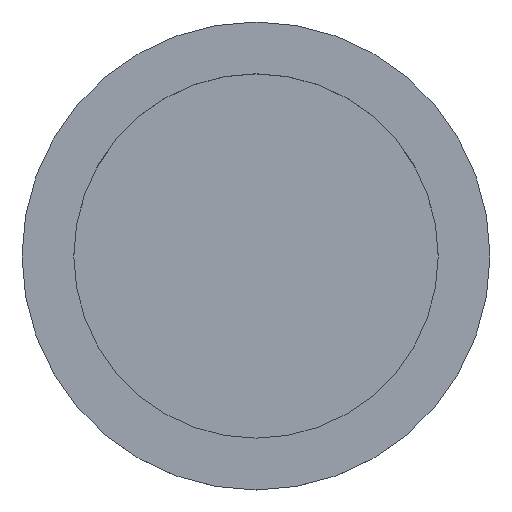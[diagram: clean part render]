
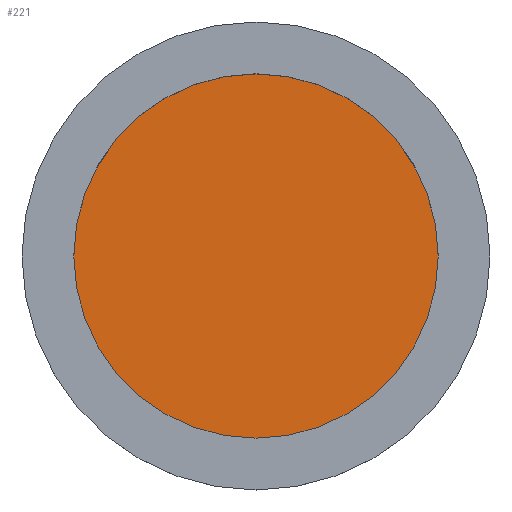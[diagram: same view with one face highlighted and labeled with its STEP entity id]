
A CAD part, top view. The second image highlights one B-rep face of the part: STEP entity #221.
In plain terms, the highlighted planar face has unit normal (0, 0, 1).
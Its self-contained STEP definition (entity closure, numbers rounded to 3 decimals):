
#190=CARTESIAN_POINT('',(54.5,0.,6.));
#191=VERTEX_POINT('',#190);
#192=CARTESIAN_POINT('',(0.0,0.0,6.));
#193=DIRECTION('',(0.0,0.0,1.0));
#194=DIRECTION('',(-1.0,0.0,0.0));
#195=AXIS2_PLACEMENT_3D('',#192,#193,#194);
#196=CIRCLE('',#195,54.5);
#197=EDGE_CURVE('',#191,#191,#196,.T.);
#213=CARTESIAN_POINT('',(0.0,0.0,6.));
#214=DIRECTION('',(0.0,0.0,-1.0));
#215=DIRECTION('',(-1.0,0.0,0.0));
#216=AXIS2_PLACEMENT_3D('',#213,#214,#215);
#217=PLANE('',#216);
#218=ORIENTED_EDGE('',*,*,#197,.T.);
#219=EDGE_LOOP('',(#218));
#220=FACE_OUTER_BOUND('',#219,.T.);
#221=ADVANCED_FACE('',(#220),#217,.F.);
